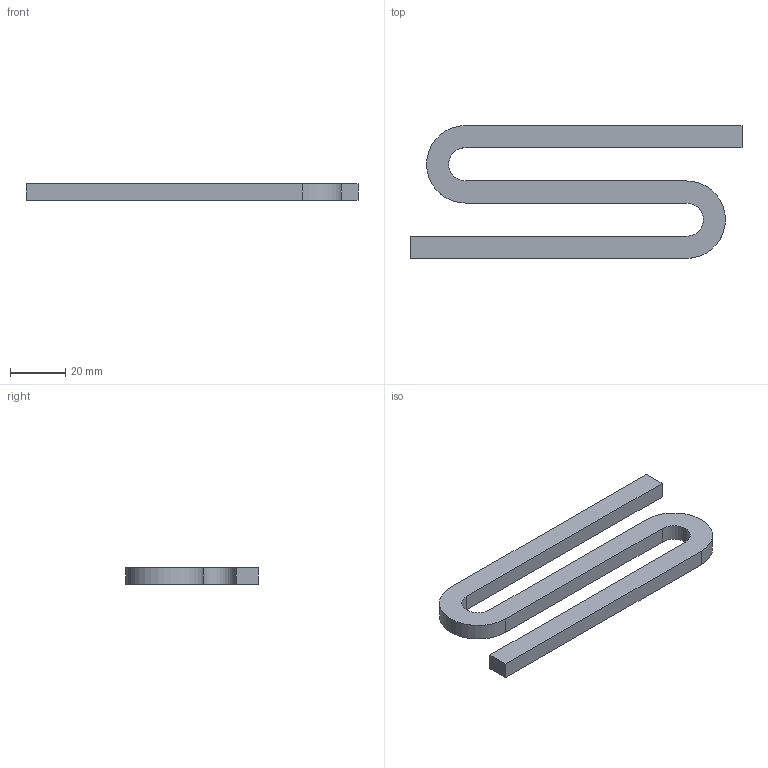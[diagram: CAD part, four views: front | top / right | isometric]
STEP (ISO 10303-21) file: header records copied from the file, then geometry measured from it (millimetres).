
FILE_DESCRIPTION(('FreeCAD Model'),'2;1');
FILE_NAME('Open CASCADE Shape Model','2026-11-03T10:07:26',('FreeCAD'),( 'FreeCAD'),'Open CASCADE STEP processor 7.8','FreeCAD','Unknown');
FILE_SCHEMA(('AUTOMOTIVE_DESIGN { 1 0 10303 214 1 1 1 1 }'));
Length unit declared in the file: millimetre
Products named in the file (1): Open CASCADE STEP translator 7.8 2
Bounding box: 120 x 48 x 6 mm (x, y, z)
Volume: 16455.9 mm3; surface area: 9695.3 mm2
Topology: 1 solids, 1 shells, 14 faces, 42 edges, 30 vertices
Faces by surface type: plane 10, cylinder 4
Entity records: 498 total; most frequent: CARTESIAN_POINT 87, DIRECTION 86, ORIENTED_EDGE 84, EDGE_CURVE 42, VERTEX_POINT 30, AXIS2_PLACEMENT_3D 29, LINE 28, VECTOR 28
